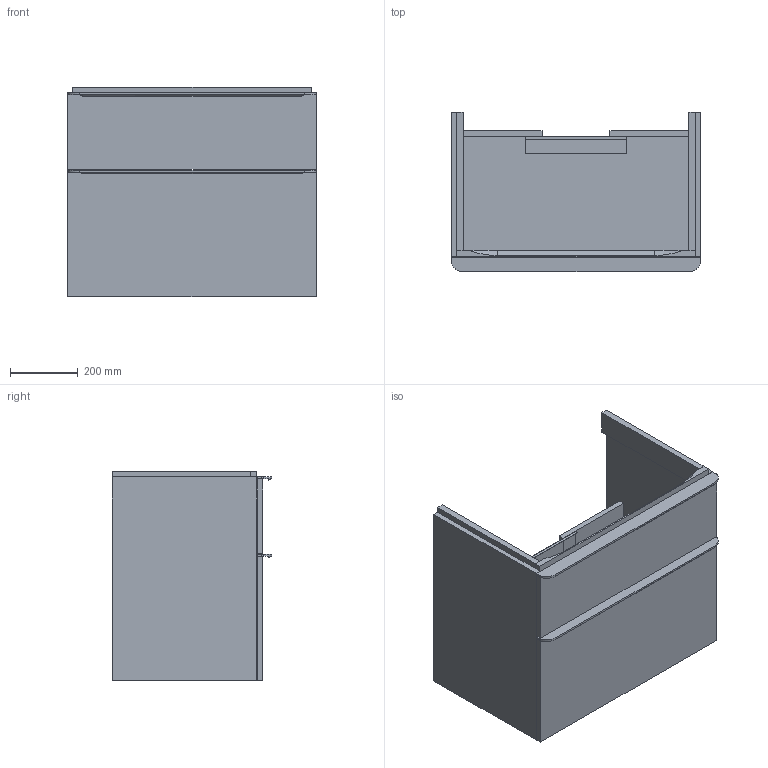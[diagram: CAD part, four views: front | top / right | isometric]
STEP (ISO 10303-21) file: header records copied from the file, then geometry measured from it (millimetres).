
FILE_DESCRIPTION(/* description */ (''),/* implementation_level */ '2;1');
FILE_NAME(/* name */ 'C:\Planerdaten\Export PLA\500.353.00.1\stp\500353.stp',/* time_stamp */ '2020-04-30T09:21:35+02:00',/* author */ ('JANAN'),/* organization */ (''),/* preprocessor_version */ 'ST-DEVELOPER v16.13',/* originating_system */ 'Autodesk Inventor 2018',/* authorisation */ '');
FILE_SCHEMA (('AUTOMOTIVE_DESIGN { 1 0 10303 214 3 1 1 }'));
Length unit declared in the file: millimetre
Products named in the file (1): US-f-1-WT Ge+SmyS B75 2-Sbl w
Bounding box: 734 x 469.9 x 617 mm (x, y, z)
Volume: 23951575.8 mm3; surface area: 3592943.9 mm2
Topology: 13 solids, 13 shells, 159 faces, 381 edges, 254 vertices
Faces by surface type: plane 133, cylinder 24, cone 2
Entity records: 4867 total; most frequent: CARTESIAN_POINT 931, ORIENTED_EDGE 762, DIRECTION 729, EDGE_CURVE 381, LINE 333, VECTOR 333, VERTEX_POINT 254, AXIS2_PLACEMENT_3D 198
